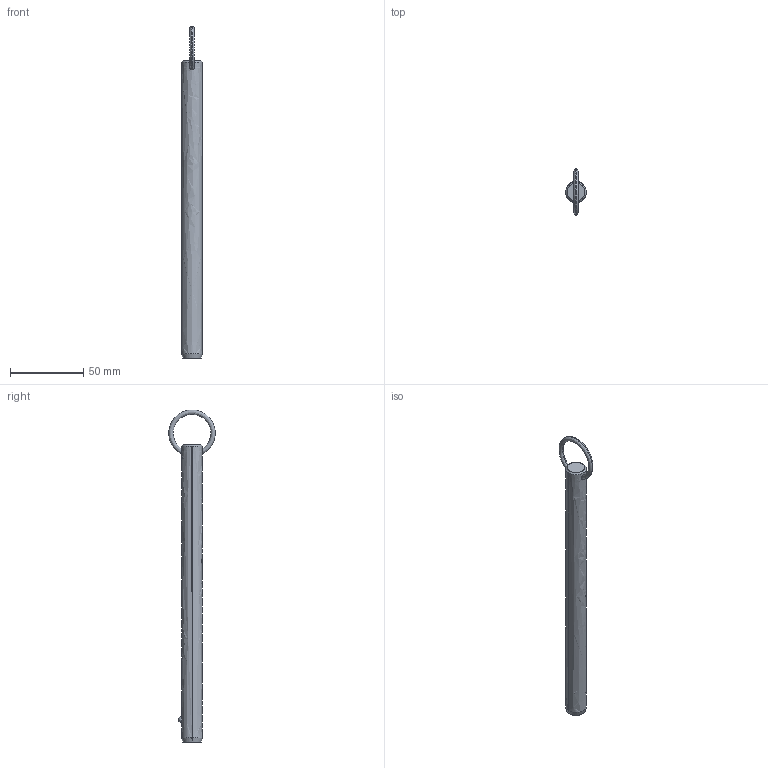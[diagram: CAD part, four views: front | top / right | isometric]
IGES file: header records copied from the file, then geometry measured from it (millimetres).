
Start section: SolidWorks IGES file using analytic representation for surfaces
Global section: file name: C:\Users\liam_\OneDrive\Documents\WORK\Work for WixRoyd\Job Files\J-00019 - Matt Davis CAD Checking\04. CAD Drawings\automotion20190605\P1250.2_v2\P1250.2_v2_20190729_IGES\P1250.056-700.igs; native system: SolidWorks 2017; preprocessor: SolidWorks 2017; author: liam_; date: 190729.232925; units: millimetre
Bounding box: 14.2 x 31.68 x 226.9 mm (x, y, z)
Surface area: 10026.3 mm2 (no closed solid volume)
Topology: 0 solids, 0 shells, 12 faces, 285 edges, 283 vertices
Faces by surface type: revolution 8, bspline 4
